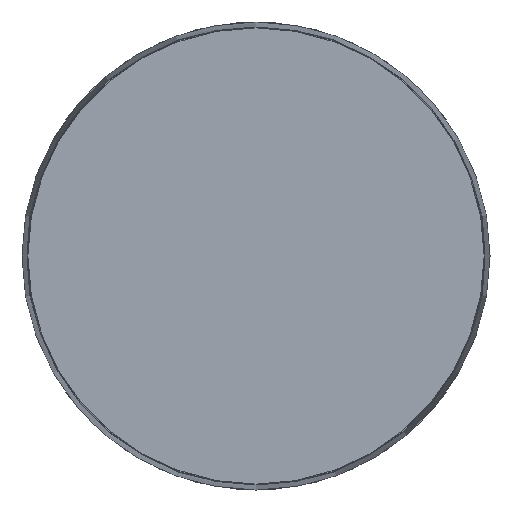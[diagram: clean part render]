
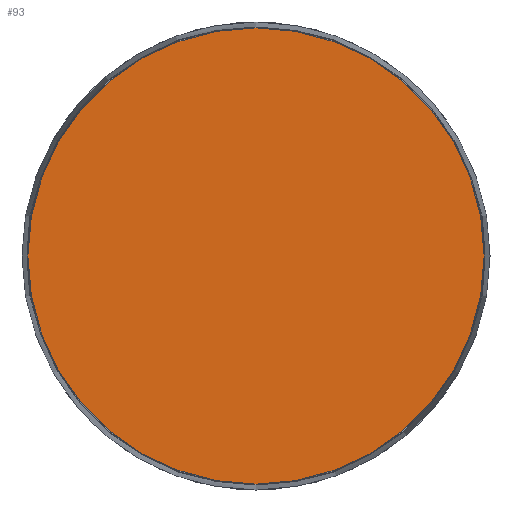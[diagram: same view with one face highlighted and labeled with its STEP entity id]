
A CAD part, front view. The second image highlights one B-rep face of the part: STEP entity #93.
In plain terms, the highlighted planar face has unit normal (0, -1, 0).
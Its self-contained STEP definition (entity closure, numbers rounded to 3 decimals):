
#68=CARTESIAN_POINT('',(0.,-182.,0.));
#69=DIRECTION('',(0.,1.,0.));
#70=DIRECTION('',(0.,0.,1.));
#71=AXIS2_PLACEMENT_3D('',#68,#69,#70);
#73=CARTESIAN_POINT('',(0.,-182.,0.));
#74=DIRECTION('',(0.,1.,0.));
#75=DIRECTION('',(0.,0.,-1.));
#76=AXIS2_PLACEMENT_3D('',#73,#74,#75);
#78=CARTESIAN_POINT('',(0.,-182.,-29.248));
#79=CARTESIAN_POINT('',(0.,-182.,29.248));
#80=VERTEX_POINT('',#78);
#81=VERTEX_POINT('',#79);
#82=CARTESIAN_POINT('',(0.,-182.,0.));
#83=DIRECTION('',(0.,1.,0.));
#84=DIRECTION('',(0.,0.,-1.));
#85=AXIS2_PLACEMENT_3D('',#82,#83,#84);
#86=PLANE('',#85);
#88=ORIENTED_EDGE('',*,*,#87,.T.);
#90=ORIENTED_EDGE('',*,*,#89,.T.);
#91=EDGE_LOOP('',(#88,#90));
#92=FACE_OUTER_BOUND('',#91,.F.);
#93=ADVANCED_FACE('',(#92),#86,.F.);
#72=CIRCLE('',#71,29.248);
#77=CIRCLE('',#76,29.248);
#87=EDGE_CURVE('',#81,#80,#72,.T.);
#89=EDGE_CURVE('',#80,#81,#77,.T.);
